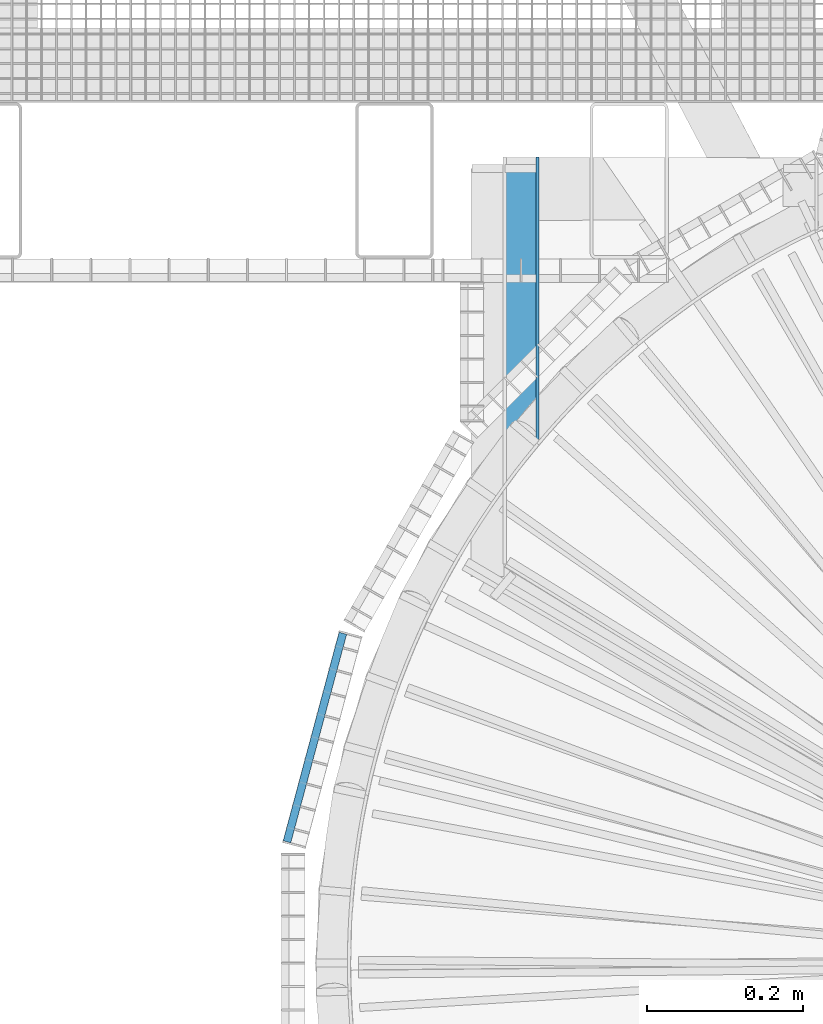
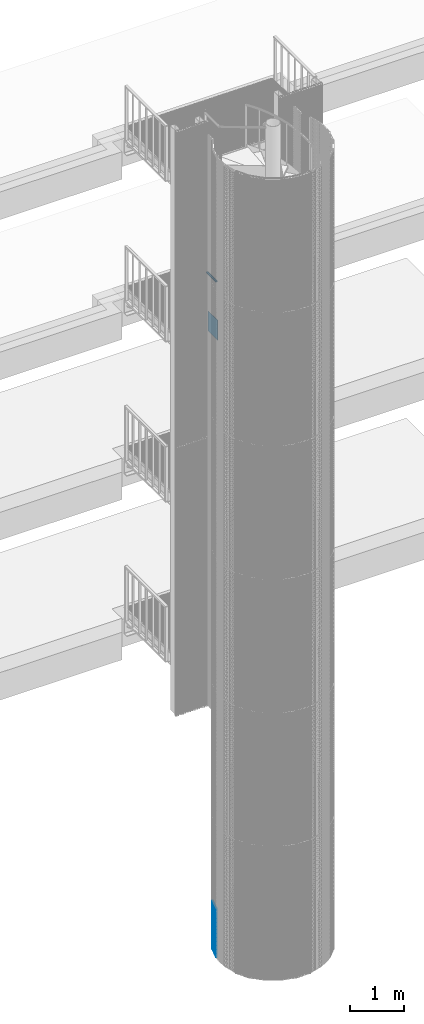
# One storey, part 222 of 1183: 39 beams, 3 elements without a shape of their own.
"""IFC2X3 building model written with IfcOpenShell, lengths in millimetres."""

from ifc_helpers import new_model, si_unit, frame, origin_with_axes, origin_2d_with_axis, place, context, subcontext, project, spatial, rectangle, hollow_circle, extrude, material, type_object, element, aggregate, save


model = new_model("IFC2X3")

# Units and contexts
model_context = context("Model", 3, precision=1e-05, world=origin_with_axes())
body_context = subcontext(model_context, "Body", "Model", "MODEL_VIEW")
ifc_project = project(units=[si_unit("LENGTHUNIT", "METRE", prefix="MILLI"), si_unit("AREAUNIT", "SQUARE_METRE"), si_unit("VOLUMEUNIT", "CUBIC_METRE"), si_unit("MASSUNIT", "GRAM", prefix="KILO"), si_unit("TIMEUNIT", "SECOND"), si_unit("PLANEANGLEUNIT", "RADIAN"), si_unit("SOLIDANGLEUNIT", "STERADIAN"), si_unit("THERMODYNAMICTEMPERATUREUNIT", "DEGREE_CELSIUS"), si_unit("LUMINOUSINTENSITYUNIT", "LUMEN")], contexts=[model_context])

# Site, building, storey
site_placement = place(None, origin_with_axes())
site = spatial("IfcSite", under=ifc_project, at=site_placement, Name="Undefined", CompositionType="ELEMENT")
building_placement = place(site_placement, origin_with_axes())
building = spatial("IfcBuilding", under=site, at=building_placement, Name="Undefined", CompositionType="ELEMENT")
storey_placement = place(building_placement, origin_with_axes())
storey = spatial("IfcBuildingStorey", under=building, at=storey_placement, Name="Undefined", CompositionType="ELEMENT", Elevation=0.0)

# Assembly, beam
assembly_1_placement = place(storey_placement, origin_with_axes())
assembly_1 = element("IfcElementAssembly", 1, at=assembly_1_placement, inside=storey, Name="MAIN_COURANTE", AssemblyPlace="NOTDEFINED", PredefinedType="NOTDEFINED")
ifc_material = material(Name="STEEL/S235JR")
beam_type_1 = type_object("IfcBeamType", Name="TUBE-42.4*3.2", PredefinedType="NOTDEFINED")
beam_1_placement = place(assembly_1_placement, frame((-810.721028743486, 677.476688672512, 14789.8400000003), z_axis=(-0.999979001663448, -0.00648044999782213, 0.0), x_axis=(-0.00648044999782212, 0.999979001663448, 0.0)))
beam_1 = element("IfcBeam", 2, at=beam_1_placement, type_object=beam_type_1, material=ifc_material, Name="MAIN_COURANTE", context=body_context, shape_type="SweptSolid", body=[
    extrude(hollow_circle(Radius=21.200000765, WallThickness=3.200000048, at=origin_2d_with_axis()), frame((337.900406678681, 1.81898940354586e-12, -2.93081884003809e-16), z_axis=(-1.0, 0.0, 0.0), x_axis=(0.0, -1.0, 0.0)), (0.0, 0.0, 1.0), 337.9),
])
aggregate(assembly_1, [beam_1])

# Assembly, beams
assembly_2_placement = place(storey_placement, origin_with_axes())
assembly_2 = element("IfcElementAssembly", 3, at=assembly_2_placement, inside=storey, Name="BORDURE", AssemblyPlace="NOTDEFINED", PredefinedType="NOTDEFINED")
beam_type_2 = type_object("IfcBeamType", Name="PL2*10", PredefinedType="NOTDEFINED")
beam_2_placement = place(assembly_2_placement, frame((-1039.82309522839, 421.483733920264, 719.999999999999), z_axis=(-0.965925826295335, 0.258819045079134, 0.0), x_axis=(-0.258819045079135, -0.965925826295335, 0.0)))
beam_2 = element("IfcBeam", 4, at=beam_2_placement, type_object=beam_type_2, material=ifc_material, Name="ENTRETOISE", context=body_context, shape_type="SweptSolid", body=[
    extrude(rectangle(XDim=2.0, YDim=10.0, at=origin_2d_with_axis()), frame((275.999999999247, 9.09494701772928e-13, 1.53210777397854e-14), z_axis=(-1.0, 0.0, 0.0), x_axis=(0.0, -1.0, 0.0)), (0.0, 0.0, 1.0), 276.0),
])
beam_3_placement = place(assembly_2_placement, frame((-1039.82309522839, 421.483733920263, 689.999999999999), z_axis=(-0.965925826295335, 0.258819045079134, 0.0), x_axis=(-0.258819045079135, -0.965925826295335, 0.0)))
beam_3 = element("IfcBeam", 5, at=beam_3_placement, type_object=beam_type_2, material=ifc_material, Name="ENTRETOISE", context=body_context, shape_type="SweptSolid", body=[
    extrude(rectangle(XDim=2.0, YDim=10.0, at=origin_2d_with_axis()), frame((275.999999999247, 9.09494701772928e-13, 1.53210777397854e-14), z_axis=(-1.0, 0.0, 0.0), x_axis=(0.0, -1.0, 0.0)), (0.0, 0.0, 1.0), 276.0),
])
beam_4_placement = place(assembly_2_placement, frame((-1039.82309522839, 421.483733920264, 749.999999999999), z_axis=(-0.965925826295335, 0.258819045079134, 0.0), x_axis=(-0.258819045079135, -0.965925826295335, 0.0)))
beam_4 = element("IfcBeam", 6, at=beam_4_placement, type_object=beam_type_2, material=ifc_material, Name="ENTRETOISE", context=body_context, shape_type="SweptSolid", body=[
    extrude(rectangle(XDim=2.0, YDim=10.0, at=origin_2d_with_axis()), frame((275.999999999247, 9.09494701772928e-13, 1.53210777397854e-14), z_axis=(-1.0, 0.0, 0.0), x_axis=(0.0, -1.0, 0.0)), (0.0, 0.0, 1.0), 276.0),
])
beam_5_placement = place(assembly_2_placement, frame((-1039.82309522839, 421.483733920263, 659.999999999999), z_axis=(-0.965925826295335, 0.258819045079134, 0.0), x_axis=(-0.258819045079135, -0.965925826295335, 0.0)))
beam_5 = element("IfcBeam", 7, at=beam_5_placement, type_object=beam_type_2, material=ifc_material, Name="ENTRETOISE", context=body_context, shape_type="SweptSolid", body=[
    extrude(rectangle(XDim=2.0, YDim=10.0, at=origin_2d_with_axis()), frame((275.999999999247, 9.09494701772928e-13, 1.53210777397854e-14), z_axis=(-1.0, 0.0, 0.0), x_axis=(0.0, -1.0, 0.0)), (0.0, 0.0, 1.0), 276.0),
])
beam_6_placement = place(assembly_2_placement, frame((-1039.82309522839, 421.483733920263, 629.999999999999), z_axis=(-0.965925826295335, 0.258819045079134, 0.0), x_axis=(-0.258819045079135, -0.965925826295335, 0.0)))
beam_6 = element("IfcBeam", 8, at=beam_6_placement, type_object=beam_type_2, material=ifc_material, Name="ENTRETOISE", context=body_context, shape_type="SweptSolid", body=[
    extrude(rectangle(XDim=2.0, YDim=10.0, at=origin_2d_with_axis()), frame((275.999999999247, 9.09494701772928e-13, 1.53210777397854e-14), z_axis=(-1.0, 0.0, 0.0), x_axis=(0.0, -1.0, 0.0)), (0.0, 0.0, 1.0), 276.0),
])
beam_7_placement = place(assembly_2_placement, frame((-1039.82309522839, 421.483733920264, 779.999999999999), z_axis=(-0.965925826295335, 0.258819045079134, 0.0), x_axis=(-0.258819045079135, -0.965925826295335, 0.0)))
beam_7 = element("IfcBeam", 9, at=beam_7_placement, type_object=beam_type_2, material=ifc_material, Name="ENTRETOISE", context=body_context, shape_type="SweptSolid", body=[
    extrude(rectangle(XDim=2.0, YDim=10.0, at=origin_2d_with_axis()), frame((275.999999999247, 9.09494701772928e-13, 1.53210777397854e-14), z_axis=(-1.0, 0.0, 0.0), x_axis=(0.0, -1.0, 0.0)), (0.0, 0.0, 1.0), 276.0),
])
beam_8_placement = place(assembly_2_placement, frame((-1039.82309522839, 421.483733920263, 599.999999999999), z_axis=(-0.965925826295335, 0.258819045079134, 0.0), x_axis=(-0.258819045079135, -0.965925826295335, 0.0)))
beam_8 = element("IfcBeam", 10, at=beam_8_placement, type_object=beam_type_2, material=ifc_material, Name="ENTRETOISE", context=body_context, shape_type="SweptSolid", body=[
    extrude(rectangle(XDim=2.0, YDim=10.0, at=origin_2d_with_axis()), frame((275.999999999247, 9.09494701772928e-13, 1.53210777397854e-14), z_axis=(-1.0, 0.0, 0.0), x_axis=(0.0, -1.0, 0.0)), (0.0, 0.0, 1.0), 276.0),
])
beam_9_placement = place(assembly_2_placement, frame((-1039.82309522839, 421.483733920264, 809.999999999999), z_axis=(-0.965925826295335, 0.258819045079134, 0.0), x_axis=(-0.258819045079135, -0.965925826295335, 0.0)))
beam_9 = element("IfcBeam", 11, at=beam_9_placement, type_object=beam_type_2, material=ifc_material, Name="ENTRETOISE", context=body_context, shape_type="SweptSolid", body=[
    extrude(rectangle(XDim=2.0, YDim=10.0, at=origin_2d_with_axis()), frame((275.999999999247, 9.09494701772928e-13, 1.53210777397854e-14), z_axis=(-1.0, 0.0, 0.0), x_axis=(0.0, -1.0, 0.0)), (0.0, 0.0, 1.0), 276.0),
])
beam_10_placement = place(assembly_2_placement, frame((-1039.82309522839, 421.483733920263, 569.999999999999), z_axis=(-0.965925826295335, 0.258819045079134, 0.0), x_axis=(-0.258819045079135, -0.965925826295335, 0.0)))
beam_10 = element("IfcBeam", 12, at=beam_10_placement, type_object=beam_type_2, material=ifc_material, Name="ENTRETOISE", context=body_context, shape_type="SweptSolid", body=[
    extrude(rectangle(XDim=2.0, YDim=10.0, at=origin_2d_with_axis()), frame((275.999999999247, 9.09494701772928e-13, 1.53210777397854e-14), z_axis=(-1.0, 0.0, 0.0), x_axis=(0.0, -1.0, 0.0)), (0.0, 0.0, 1.0), 276.0),
])
beam_11_placement = place(assembly_2_placement, frame((-1039.82309522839, 421.483733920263, 539.999999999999), z_axis=(-0.965925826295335, 0.258819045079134, 0.0), x_axis=(-0.258819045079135, -0.965925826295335, 0.0)))
beam_11 = element("IfcBeam", 13, at=beam_11_placement, type_object=beam_type_2, material=ifc_material, Name="ENTRETOISE", context=body_context, shape_type="SweptSolid", body=[
    extrude(rectangle(XDim=2.0, YDim=10.0, at=origin_2d_with_axis()), frame((275.999999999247, 9.09494701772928e-13, 1.53210777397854e-14), z_axis=(-1.0, 0.0, 0.0), x_axis=(0.0, -1.0, 0.0)), (0.0, 0.0, 1.0), 276.0),
])
beam_12_placement = place(assembly_2_placement, frame((-1039.82309522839, 421.483733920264, 839.999999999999), z_axis=(-0.965925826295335, 0.258819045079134, 0.0), x_axis=(-0.258819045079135, -0.965925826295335, 0.0)))
beam_12 = element("IfcBeam", 14, at=beam_12_placement, type_object=beam_type_2, material=ifc_material, Name="ENTRETOISE", context=body_context, shape_type="SweptSolid", body=[
    extrude(rectangle(XDim=2.0, YDim=10.0, at=origin_2d_with_axis()), frame((275.999999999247, 9.09494701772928e-13, 1.53210777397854e-14), z_axis=(-1.0, 0.0, 0.0), x_axis=(0.0, -1.0, 0.0)), (0.0, 0.0, 1.0), 276.0),
])
beam_13_placement = place(assembly_2_placement, frame((-1039.82309522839, 421.483733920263, 509.999999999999), z_axis=(-0.965925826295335, 0.258819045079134, 0.0), x_axis=(-0.258819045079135, -0.965925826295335, 0.0)))
beam_13 = element("IfcBeam", 15, at=beam_13_placement, type_object=beam_type_2, material=ifc_material, Name="ENTRETOISE", context=body_context, shape_type="SweptSolid", body=[
    extrude(rectangle(XDim=2.0, YDim=10.0, at=origin_2d_with_axis()), frame((275.999999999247, 9.09494701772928e-13, 1.53210777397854e-14), z_axis=(-1.0, 0.0, 0.0), x_axis=(0.0, -1.0, 0.0)), (0.0, 0.0, 1.0), 276.0),
])
beam_14_placement = place(assembly_2_placement, frame((-1039.82309522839, 421.483733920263, 479.999999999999), z_axis=(-0.965925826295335, 0.258819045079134, 0.0), x_axis=(-0.258819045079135, -0.965925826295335, 0.0)))
beam_14 = element("IfcBeam", 16, at=beam_14_placement, type_object=beam_type_2, material=ifc_material, Name="ENTRETOISE", context=body_context, shape_type="SweptSolid", body=[
    extrude(rectangle(XDim=2.0, YDim=10.0, at=origin_2d_with_axis()), frame((275.999999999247, 9.09494701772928e-13, 1.53210777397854e-14), z_axis=(-1.0, 0.0, 0.0), x_axis=(0.0, -1.0, 0.0)), (0.0, 0.0, 1.0), 276.0),
])
beam_15_placement = place(assembly_2_placement, frame((-1039.82309522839, 421.483733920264, 869.999999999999), z_axis=(-0.965925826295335, 0.258819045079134, 0.0), x_axis=(-0.258819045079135, -0.965925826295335, 0.0)))
beam_15 = element("IfcBeam", 17, at=beam_15_placement, type_object=beam_type_2, material=ifc_material, Name="ENTRETOISE", context=body_context, shape_type="SweptSolid", body=[
    extrude(rectangle(XDim=2.0, YDim=10.0, at=origin_2d_with_axis()), frame((275.999999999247, 9.09494701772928e-13, 1.53210777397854e-14), z_axis=(-1.0, 0.0, 0.0), x_axis=(0.0, -1.0, 0.0)), (0.0, 0.0, 1.0), 276.0),
])
beam_16_placement = place(assembly_2_placement, frame((-1039.82309522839, 421.483733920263, 449.999999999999), z_axis=(-0.965925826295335, 0.258819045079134, 0.0), x_axis=(-0.258819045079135, -0.965925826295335, 0.0)))
beam_16 = element("IfcBeam", 18, at=beam_16_placement, type_object=beam_type_2, material=ifc_material, Name="ENTRETOISE", context=body_context, shape_type="SweptSolid", body=[
    extrude(rectangle(XDim=2.0, YDim=10.0, at=origin_2d_with_axis()), frame((275.999999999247, 9.09494701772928e-13, 1.53210777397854e-14), z_axis=(-1.0, 0.0, 0.0), x_axis=(0.0, -1.0, 0.0)), (0.0, 0.0, 1.0), 276.0),
])
beam_17_placement = place(assembly_2_placement, frame((-1039.82309522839, 421.483733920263, 419.999999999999), z_axis=(-0.965925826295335, 0.258819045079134, 0.0), x_axis=(-0.258819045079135, -0.965925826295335, 0.0)))
beam_17 = element("IfcBeam", 19, at=beam_17_placement, type_object=beam_type_2, material=ifc_material, Name="ENTRETOISE", context=body_context, shape_type="SweptSolid", body=[
    extrude(rectangle(XDim=2.0, YDim=10.0, at=origin_2d_with_axis()), frame((275.999999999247, 9.09494701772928e-13, 1.53210777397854e-14), z_axis=(-1.0, 0.0, 0.0), x_axis=(0.0, -1.0, 0.0)), (0.0, 0.0, 1.0), 276.0),
])
beam_18_placement = place(assembly_2_placement, frame((-1039.82309522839, 421.483733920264, 899.999999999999), z_axis=(-0.965925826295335, 0.258819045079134, 0.0), x_axis=(-0.258819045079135, -0.965925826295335, 0.0)))
beam_18 = element("IfcBeam", 20, at=beam_18_placement, type_object=beam_type_2, material=ifc_material, Name="ENTRETOISE", context=body_context, shape_type="SweptSolid", body=[
    extrude(rectangle(XDim=2.0, YDim=10.0, at=origin_2d_with_axis()), frame((275.999999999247, 9.09494701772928e-13, 1.53210777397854e-14), z_axis=(-1.0, 0.0, 0.0), x_axis=(0.0, -1.0, 0.0)), (0.0, 0.0, 1.0), 276.0),
])
beam_19_placement = place(assembly_2_placement, frame((-1039.82309522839, 421.483733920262, 389.999999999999), z_axis=(-0.965925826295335, 0.258819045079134, 0.0), x_axis=(-0.258819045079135, -0.965925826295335, 0.0)))
beam_19 = element("IfcBeam", 21, at=beam_19_placement, type_object=beam_type_2, material=ifc_material, Name="ENTRETOISE", context=body_context, shape_type="SweptSolid", body=[
    extrude(rectangle(XDim=2.0, YDim=10.0, at=origin_2d_with_axis()), frame((275.999999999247, 9.09494701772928e-13, 1.53210777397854e-14), z_axis=(-1.0, 0.0, 0.0), x_axis=(0.0, -1.0, 0.0)), (0.0, 0.0, 1.0), 276.0),
])
beam_20_placement = place(assembly_2_placement, frame((-1039.82309522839, 421.483733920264, 929.999999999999), z_axis=(-0.965925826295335, 0.258819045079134, 0.0), x_axis=(-0.258819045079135, -0.965925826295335, 0.0)))
beam_20 = element("IfcBeam", 22, at=beam_20_placement, type_object=beam_type_2, material=ifc_material, Name="ENTRETOISE", context=body_context, shape_type="SweptSolid", body=[
    extrude(rectangle(XDim=2.0, YDim=10.0, at=origin_2d_with_axis()), frame((275.999999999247, 9.09494701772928e-13, 1.53210777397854e-14), z_axis=(-1.0, 0.0, 0.0), x_axis=(0.0, -1.0, 0.0)), (0.0, 0.0, 1.0), 276.0),
])
beam_21_placement = place(assembly_2_placement, frame((-1039.82309522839, 421.483733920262, 359.999999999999), z_axis=(-0.965925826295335, 0.258819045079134, 0.0), x_axis=(-0.258819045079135, -0.965925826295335, 0.0)))
beam_21 = element("IfcBeam", 23, at=beam_21_placement, type_object=beam_type_2, material=ifc_material, Name="ENTRETOISE", context=body_context, shape_type="SweptSolid", body=[
    extrude(rectangle(XDim=2.0, YDim=10.0, at=origin_2d_with_axis()), frame((275.999999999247, 9.09494701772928e-13, 1.53210777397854e-14), z_axis=(-1.0, 0.0, 0.0), x_axis=(0.0, -1.0, 0.0)), (0.0, 0.0, 1.0), 276.0),
])
beam_22_placement = place(assembly_2_placement, frame((-1039.82309522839, 421.483733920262, 329.999999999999), z_axis=(-0.965925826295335, 0.258819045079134, 0.0), x_axis=(-0.258819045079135, -0.965925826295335, 0.0)))
beam_22 = element("IfcBeam", 24, at=beam_22_placement, type_object=beam_type_2, material=ifc_material, Name="ENTRETOISE", context=body_context, shape_type="SweptSolid", body=[
    extrude(rectangle(XDim=2.0, YDim=10.0, at=origin_2d_with_axis()), frame((275.999999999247, 9.09494701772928e-13, 1.53210777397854e-14), z_axis=(-1.0, 0.0, 0.0), x_axis=(0.0, -1.0, 0.0)), (0.0, 0.0, 1.0), 276.0),
])
beam_23_placement = place(assembly_2_placement, frame((-1039.82309522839, 421.483733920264, 959.999999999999), z_axis=(-0.965925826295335, 0.258819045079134, 0.0), x_axis=(-0.258819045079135, -0.965925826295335, 0.0)))
beam_23 = element("IfcBeam", 25, at=beam_23_placement, type_object=beam_type_2, material=ifc_material, Name="ENTRETOISE", context=body_context, shape_type="SweptSolid", body=[
    extrude(rectangle(XDim=2.0, YDim=10.0, at=origin_2d_with_axis()), frame((275.999999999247, 9.09494701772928e-13, 1.53210777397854e-14), z_axis=(-1.0, 0.0, 0.0), x_axis=(0.0, -1.0, 0.0)), (0.0, 0.0, 1.0), 276.0),
])
beam_24_placement = place(assembly_2_placement, frame((-1039.82309522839, 421.483733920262, 299.999999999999), z_axis=(-0.965925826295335, 0.258819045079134, 0.0), x_axis=(-0.258819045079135, -0.965925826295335, 0.0)))
beam_24 = element("IfcBeam", 26, at=beam_24_placement, type_object=beam_type_2, material=ifc_material, Name="ENTRETOISE", context=body_context, shape_type="SweptSolid", body=[
    extrude(rectangle(XDim=2.0, YDim=10.0, at=origin_2d_with_axis()), frame((275.999999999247, 9.09494701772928e-13, 1.53210777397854e-14), z_axis=(-1.0, 0.0, 0.0), x_axis=(0.0, -1.0, 0.0)), (0.0, 0.0, 1.0), 276.0),
])
beam_25_placement = place(assembly_2_placement, frame((-1039.82309522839, 421.483733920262, 269.999999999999), z_axis=(-0.965925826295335, 0.258819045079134, 0.0), x_axis=(-0.258819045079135, -0.965925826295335, 0.0)))
beam_25 = element("IfcBeam", 27, at=beam_25_placement, type_object=beam_type_2, material=ifc_material, Name="ENTRETOISE", context=body_context, shape_type="SweptSolid", body=[
    extrude(rectangle(XDim=2.0, YDim=10.0, at=origin_2d_with_axis()), frame((275.999999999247, 9.09494701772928e-13, 1.53210777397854e-14), z_axis=(-1.0, 0.0, 0.0), x_axis=(0.0, -1.0, 0.0)), (0.0, 0.0, 1.0), 276.0),
])
beam_26_placement = place(assembly_2_placement, frame((-1039.82309522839, 421.483733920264, 989.999999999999), z_axis=(-0.965925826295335, 0.258819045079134, 0.0), x_axis=(-0.258819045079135, -0.965925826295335, 0.0)))
beam_26 = element("IfcBeam", 28, at=beam_26_placement, type_object=beam_type_2, material=ifc_material, Name="ENTRETOISE", context=body_context, shape_type="SweptSolid", body=[
    extrude(rectangle(XDim=2.0, YDim=10.0, at=origin_2d_with_axis()), frame((275.999999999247, 9.09494701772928e-13, 1.53210777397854e-14), z_axis=(-1.0, 0.0, 0.0), x_axis=(0.0, -1.0, 0.0)), (0.0, 0.0, 1.0), 276.0),
])
beam_27_placement = place(assembly_2_placement, frame((-1039.82309522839, 421.483733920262, 239.999999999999), z_axis=(-0.965925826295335, 0.258819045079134, 0.0), x_axis=(-0.258819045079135, -0.965925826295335, 0.0)))
beam_27 = element("IfcBeam", 29, at=beam_27_placement, type_object=beam_type_2, material=ifc_material, Name="ENTRETOISE", context=body_context, shape_type="SweptSolid", body=[
    extrude(rectangle(XDim=2.0, YDim=10.0, at=origin_2d_with_axis()), frame((275.999999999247, 9.09494701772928e-13, 1.53210777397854e-14), z_axis=(-1.0, 0.0, 0.0), x_axis=(0.0, -1.0, 0.0)), (0.0, 0.0, 1.0), 276.0),
])
beam_28_placement = place(assembly_2_placement, frame((-1039.82309522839, 421.483733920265, 1020.0), z_axis=(-0.965925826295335, 0.258819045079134, 0.0), x_axis=(-0.258819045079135, -0.965925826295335, 0.0)))
beam_28 = element("IfcBeam", 30, at=beam_28_placement, type_object=beam_type_2, material=ifc_material, Name="ENTRETOISE", context=body_context, shape_type="SweptSolid", body=[
    extrude(rectangle(XDim=2.0, YDim=10.0, at=origin_2d_with_axis()), frame((275.999999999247, 9.09494701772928e-13, 1.53210777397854e-14), z_axis=(-1.0, 0.0, 0.0), x_axis=(0.0, -1.0, 0.0)), (0.0, 0.0, 1.0), 276.0),
])
beam_29_placement = place(assembly_2_placement, frame((-1039.82309522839, 421.483733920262, 209.999999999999), z_axis=(-0.965925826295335, 0.258819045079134, 0.0), x_axis=(-0.258819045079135, -0.965925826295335, 0.0)))
beam_29 = element("IfcBeam", 31, at=beam_29_placement, type_object=beam_type_2, material=ifc_material, Name="ENTRETOISE", context=body_context, shape_type="SweptSolid", body=[
    extrude(rectangle(XDim=2.0, YDim=10.0, at=origin_2d_with_axis()), frame((275.999999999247, 9.09494701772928e-13, 1.53210777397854e-14), z_axis=(-1.0, 0.0, 0.0), x_axis=(0.0, -1.0, 0.0)), (0.0, 0.0, 1.0), 276.0),
])
beam_30_placement = place(assembly_2_placement, frame((-1039.82309522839, 421.483733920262, 179.999999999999), z_axis=(-0.965925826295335, 0.258819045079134, 0.0), x_axis=(-0.258819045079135, -0.965925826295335, 0.0)))
beam_30 = element("IfcBeam", 32, at=beam_30_placement, type_object=beam_type_2, material=ifc_material, Name="ENTRETOISE", context=body_context, shape_type="SweptSolid", body=[
    extrude(rectangle(XDim=2.0, YDim=10.0, at=origin_2d_with_axis()), frame((275.999999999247, 9.09494701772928e-13, 1.53210777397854e-14), z_axis=(-1.0, 0.0, 0.0), x_axis=(0.0, -1.0, 0.0)), (0.0, 0.0, 1.0), 276.0),
])
beam_31_placement = place(assembly_2_placement, frame((-1039.82309522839, 421.483733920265, 1050.0), z_axis=(-0.965925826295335, 0.258819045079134, 0.0), x_axis=(-0.258819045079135, -0.965925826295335, 0.0)))
beam_31 = element("IfcBeam", 33, at=beam_31_placement, type_object=beam_type_2, material=ifc_material, Name="ENTRETOISE", context=body_context, shape_type="SweptSolid", body=[
    extrude(rectangle(XDim=2.0, YDim=10.0, at=origin_2d_with_axis()), frame((275.999999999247, 9.09494701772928e-13, 1.53210777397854e-14), z_axis=(-1.0, 0.0, 0.0), x_axis=(0.0, -1.0, 0.0)), (0.0, 0.0, 1.0), 276.0),
])
beam_32_placement = place(assembly_2_placement, frame((-1039.82309522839, 421.483733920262, 149.999999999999), z_axis=(-0.965925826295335, 0.258819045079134, 0.0), x_axis=(-0.258819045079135, -0.965925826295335, 0.0)))
beam_32 = element("IfcBeam", 34, at=beam_32_placement, type_object=beam_type_2, material=ifc_material, Name="ENTRETOISE", context=body_context, shape_type="SweptSolid", body=[
    extrude(rectangle(XDim=2.0, YDim=10.0, at=origin_2d_with_axis()), frame((275.999999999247, 9.09494701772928e-13, 1.53210777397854e-14), z_axis=(-1.0, 0.0, 0.0), x_axis=(0.0, -1.0, 0.0)), (0.0, 0.0, 1.0), 276.0),
])
beam_33_placement = place(assembly_2_placement, frame((-1039.82309522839, 421.483733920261, 119.999999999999), z_axis=(-0.965925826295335, 0.258819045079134, 0.0), x_axis=(-0.258819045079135, -0.965925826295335, 0.0)))
beam_33 = element("IfcBeam", 35, at=beam_33_placement, type_object=beam_type_2, material=ifc_material, Name="ENTRETOISE", context=body_context, shape_type="SweptSolid", body=[
    extrude(rectangle(XDim=2.0, YDim=10.0, at=origin_2d_with_axis()), frame((275.999999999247, 9.09494701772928e-13, 1.53210777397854e-14), z_axis=(-1.0, 0.0, 0.0), x_axis=(0.0, -1.0, 0.0)), (0.0, 0.0, 1.0), 276.0),
])
beam_34_placement = place(assembly_2_placement, frame((-1039.82309522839, 421.483733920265, 1080.0), z_axis=(-0.965925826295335, 0.258819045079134, 0.0), x_axis=(-0.258819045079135, -0.965925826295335, 0.0)))
beam_34 = element("IfcBeam", 36, at=beam_34_placement, type_object=beam_type_2, material=ifc_material, Name="ENTRETOISE", context=body_context, shape_type="SweptSolid", body=[
    extrude(rectangle(XDim=2.0, YDim=10.0, at=origin_2d_with_axis()), frame((275.999999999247, 9.09494701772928e-13, 1.53210777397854e-14), z_axis=(-1.0, 0.0, 0.0), x_axis=(0.0, -1.0, 0.0)), (0.0, 0.0, 1.0), 276.0),
])
beam_35_placement = place(assembly_2_placement, frame((-1039.82309522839, 421.483733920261, 89.9999999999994), z_axis=(-0.965925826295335, 0.258819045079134, 0.0), x_axis=(-0.258819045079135, -0.965925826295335, 0.0)))
beam_35 = element("IfcBeam", 37, at=beam_35_placement, type_object=beam_type_2, material=ifc_material, Name="ENTRETOISE", context=body_context, shape_type="SweptSolid", body=[
    extrude(rectangle(XDim=2.0, YDim=10.0, at=origin_2d_with_axis()), frame((275.999999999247, 9.09494701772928e-13, 1.53210777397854e-14), z_axis=(-1.0, 0.0, 0.0), x_axis=(0.0, -1.0, 0.0)), (0.0, 0.0, 1.0), 276.0),
])
beam_36_placement = place(assembly_2_placement, frame((-1039.82309522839, 421.483733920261, 59.9999999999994), z_axis=(-0.965925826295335, 0.258819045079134, 0.0), x_axis=(-0.258819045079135, -0.965925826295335, 0.0)))
beam_36 = element("IfcBeam", 38, at=beam_36_placement, type_object=beam_type_2, material=ifc_material, Name="ENTRETOISE", context=body_context, shape_type="SweptSolid", body=[
    extrude(rectangle(XDim=2.0, YDim=10.0, at=origin_2d_with_axis()), frame((275.999999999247, 9.09494701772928e-13, 1.53210777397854e-14), z_axis=(-1.0, 0.0, 0.0), x_axis=(0.0, -1.0, 0.0)), (0.0, 0.0, 1.0), 276.0),
])
beam_37_placement = place(assembly_2_placement, frame((-1039.82309522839, 421.483733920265, 1110.0), z_axis=(-0.965925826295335, 0.258819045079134, 0.0), x_axis=(-0.258819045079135, -0.965925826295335, 0.0)))
beam_37 = element("IfcBeam", 39, at=beam_37_placement, type_object=beam_type_2, material=ifc_material, Name="ENTRETOISE", context=body_context, shape_type="SweptSolid", body=[
    extrude(rectangle(XDim=2.0, YDim=10.0, at=origin_2d_with_axis()), frame((275.999999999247, 9.09494701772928e-13, 1.53210777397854e-14), z_axis=(-1.0, 0.0, 0.0), x_axis=(0.0, -1.0, 0.0)), (0.0, 0.0, 1.0), 276.0),
])
beam_38_placement = place(assembly_2_placement, frame((-1039.82309522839, 421.48373392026, 29.9999999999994), z_axis=(-0.965925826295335, 0.258819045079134, 0.0), x_axis=(-0.258819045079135, -0.965925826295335, 0.0)))
beam_38 = element("IfcBeam", 40, at=beam_38_placement, type_object=beam_type_2, material=ifc_material, Name="ENTRETOISE", context=body_context, shape_type="SweptSolid", body=[
    extrude(rectangle(XDim=2.0, YDim=10.0, at=origin_2d_with_axis()), frame((275.999999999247, 9.09494701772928e-13, 1.53210777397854e-14), z_axis=(-1.0, 0.0, 0.0), x_axis=(0.0, -1.0, 0.0)), (0.0, 0.0, 1.0), 276.0),
])
aggregate(assembly_2, [beam_2, beam_3, beam_4, beam_5, beam_6, beam_7, beam_8, beam_9, beam_10, beam_11, beam_12, beam_13, beam_14, beam_15, beam_16, beam_17, beam_18, beam_19, beam_20, beam_21, beam_22, beam_23, beam_24, beam_25, beam_26, beam_27, beam_28, beam_29, beam_30, beam_31, beam_32, beam_33, beam_34, beam_35, beam_36, beam_37, beam_38])

# Assembly, beam
assembly_3_placement = place(storey_placement, origin_with_axes())
assembly_3 = element("IfcElementAssembly", 41, at=assembly_3_placement, inside=storey, AssemblyPlace="NOTDEFINED", PredefinedType="NOTDEFINED")
beam_type_3 = type_object("IfcBeamType", Name="PLT4*450", PredefinedType="NOTDEFINED")
beam_39_placement = place(assembly_3_placement, frame((-790.962362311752, 668.409588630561, 13689.84), z_axis=(0.0, 0.0, 1.0), x_axis=(0.000144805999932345, 0.999999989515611, 0.0)))
beam_39 = element("IfcBeam", 42, at=beam_39_placement, type_object=beam_type_3, material=ifc_material, Name="GARDE_PIED", context=body_context, shape_type="SweptSolid", body=[
    extrude(rectangle(XDim=4.0, YDim=450.0, at=origin_2d_with_axis()), frame((361.606870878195, -9.80137387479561e-18, 1.81898940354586e-12), z_axis=(-1.0, 0.0, 0.0), x_axis=(0.0, -1.0, 0.0)), (0.0, 0.0, 1.0), 361.61),
])
aggregate(assembly_3, [beam_39])

save(model, "model.ifc")
